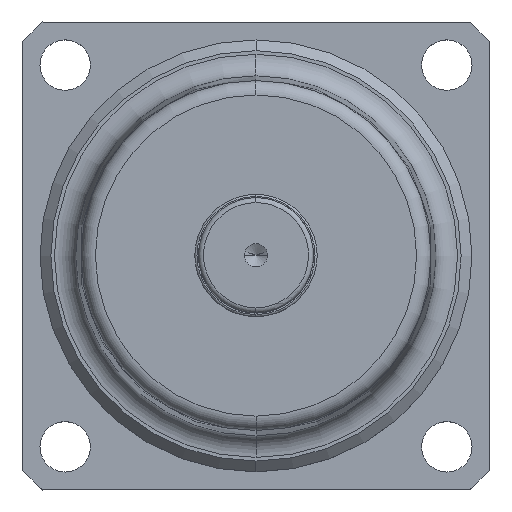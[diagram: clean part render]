
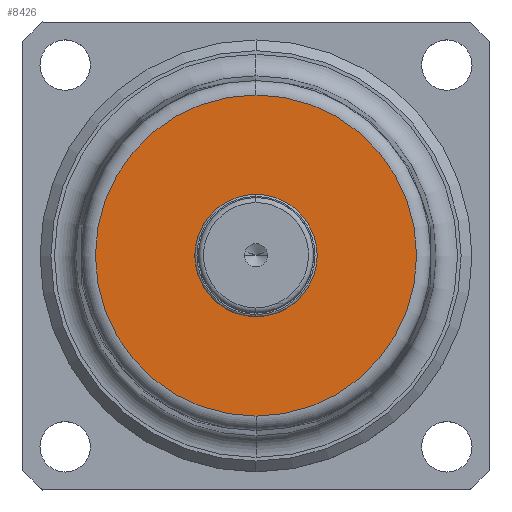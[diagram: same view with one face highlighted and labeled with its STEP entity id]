
A CAD part, top view. The second image highlights one B-rep face of the part: STEP entity #8426.
In plain terms, the highlighted planar face has unit normal (0, 0, 1).
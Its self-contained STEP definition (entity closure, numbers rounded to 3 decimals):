
#387=CARTESIAN_POINT('',(0.,0.,34.5));
#388=DIRECTION('',(0.,0.,-1.));
#389=DIRECTION('',(0.,1.,0.));
#390=AXIS2_PLACEMENT_3D('',#387,#388,#389);
#392=CARTESIAN_POINT('',(0.,0.,34.5));
#393=DIRECTION('',(0.,0.,-1.));
#394=DIRECTION('',(0.,-1.,0.));
#395=AXIS2_PLACEMENT_3D('',#392,#393,#394);
#397=CARTESIAN_POINT('',(0.,0.,34.5));
#398=DIRECTION('',(0.,0.,1.));
#399=DIRECTION('',(0.,1.,0.));
#400=AXIS2_PLACEMENT_3D('',#397,#398,#399);
#402=CARTESIAN_POINT('',(0.,0.,34.5));
#403=DIRECTION('',(0.,0.,1.));
#404=DIRECTION('',(0.,-1.,0.));
#405=AXIS2_PLACEMENT_3D('',#402,#403,#404);
#6329=CARTESIAN_POINT('',(0.,22.309,
34.5));
#6330=VERTEX_POINT('',#6329);
#6331=CARTESIAN_POINT('',(0.,-22.309,34.5));
#6332=VERTEX_POINT('',#6331);
#6333=CARTESIAN_POINT('',(0.,8.5,34.5));
#6334=CARTESIAN_POINT('',(0.,-8.5,34.5));
#6335=VERTEX_POINT('',#6333);
#6336=VERTEX_POINT('',#6334);
#8411=CARTESIAN_POINT('',(0.,0.,34.5));
#8412=DIRECTION('',(0.,0.,1.));
#8413=DIRECTION('',(0.,-1.,0.));
#8414=AXIS2_PLACEMENT_3D('',#8411,#8412,#8413);
#8415=PLANE('',#8414);
#8416=ORIENTED_EDGE('',*,*,#8380,.T.);
#8417=ORIENTED_EDGE('',*,*,#8393,.T.);
#8418=EDGE_LOOP('',(#8416,#8417));
#8419=FACE_OUTER_BOUND('',#8418,.F.);
#8421=ORIENTED_EDGE('',*,*,#8420,.T.);
#8423=ORIENTED_EDGE('',*,*,#8422,.T.);
#8424=EDGE_LOOP('',(#8421,#8423));
#8425=FACE_BOUND('',#8424,.F.);
#8426=ADVANCED_FACE('',(#8419,#8425),#8415,.T.);
#391=CIRCLE('',#390,22.309);
#396=CIRCLE('',#395,22.309);
#401=CIRCLE('',#400,8.5);
#406=CIRCLE('',#405,8.5);
#8380=EDGE_CURVE('',#6330,#6332,#391,.T.);
#8393=EDGE_CURVE('',#6332,#6330,#396,.T.);
#8420=EDGE_CURVE('',#6335,#6336,#401,.T.);
#8422=EDGE_CURVE('',#6336,#6335,#406,.T.);
